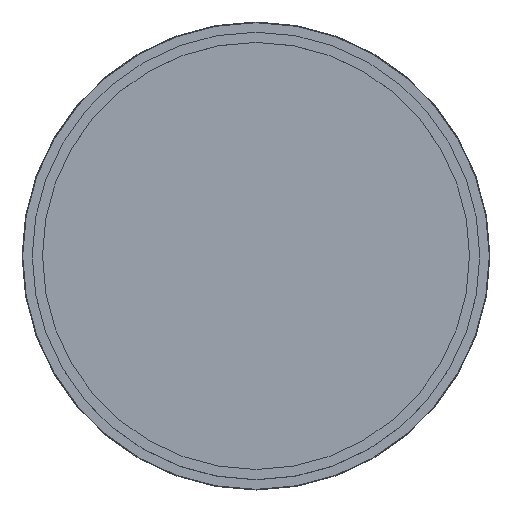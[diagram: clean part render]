
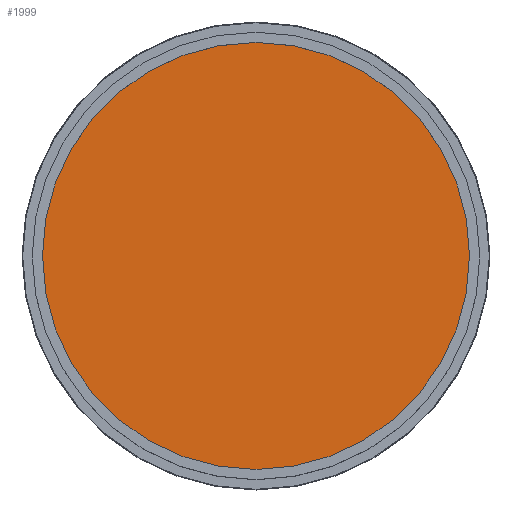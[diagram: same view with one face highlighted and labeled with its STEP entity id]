
A CAD part, top view. The second image highlights one B-rep face of the part: STEP entity #1999.
In plain terms, the highlighted planar face has unit normal (0, 0, 1).
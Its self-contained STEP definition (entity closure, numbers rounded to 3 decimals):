
#468 = CIRCLE ( 'NONE', #6403, 417.5 ) ;
#1083 = AXIS2_PLACEMENT_3D ( 'NONE', #6035, #6012, #6070 ) ;
#1436 = AXIS2_PLACEMENT_3D ( 'NONE', #1577, #1578, #1579 ) ;
#1577 = CARTESIAN_POINT ( 'NONE',  ( 0., 0., 60. ) ) ;
#1578 = DIRECTION ( 'NONE',  ( 0., 0., 1. ) ) ;
#1579 = DIRECTION ( 'NONE',  ( 1., 0., 0. ) ) ;
#1910 = CARTESIAN_POINT ( 'NONE',  ( 417.5, 0., 60. ) ) ;
#1999 = ADVANCED_FACE ( 'NONE', ( #4997 ), #6010, .F. ) ;
#3773 = EDGE_LOOP ( 'NONE', ( #8817, #8903 ) ) ;
#3919 = EDGE_CURVE ( 'NONE', #5814, #7877, #8597, .T. ) ;
#4997 = FACE_OUTER_BOUND ( 'NONE', #3773, .T. ) ;
#5814 = VERTEX_POINT ( 'NONE', #1910 ) ;
#6010 = PLANE ( 'NONE',  #1083 ) ;
#6012 = DIRECTION ( 'NONE',  ( 0., 0., -1. ) ) ;
#6035 = CARTESIAN_POINT ( 'NONE',  ( 0., 0., 60. ) ) ;
#6070 = DIRECTION ( 'NONE',  ( -1., 0., 0. ) ) ;
#6403 = AXIS2_PLACEMENT_3D ( 'NONE', #8131, #8132, #8133 ) ;
#7670 = EDGE_CURVE ( 'NONE', #7877, #5814, #468, .T. ) ;
#7877 = VERTEX_POINT ( 'NONE', #8201 ) ;
#8131 = CARTESIAN_POINT ( 'NONE',  ( 0., 0., 60. ) ) ;
#8132 = DIRECTION ( 'NONE',  ( 0., 0., 1. ) ) ;
#8133 = DIRECTION ( 'NONE',  ( 1., 0., 0. ) ) ;
#8201 = CARTESIAN_POINT ( 'NONE',  ( -417.5, 0., 60. ) ) ;
#8597 = CIRCLE ( 'NONE', #1436, 417.5 ) ;
#8817 = ORIENTED_EDGE ( 'NONE', *, *, #7670, .T. ) ;
#8903 = ORIENTED_EDGE ( 'NONE', *, *, #3919, .T. ) ;
